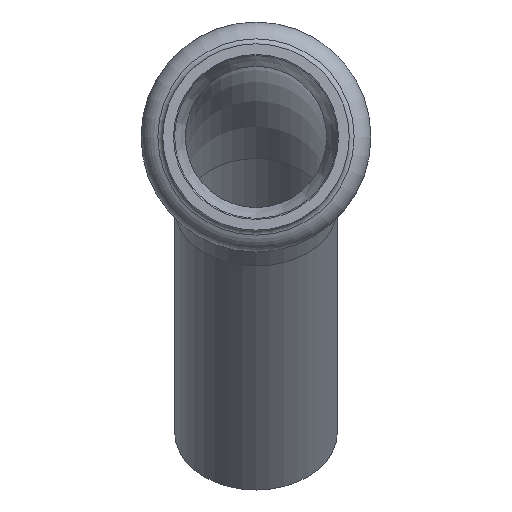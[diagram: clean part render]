
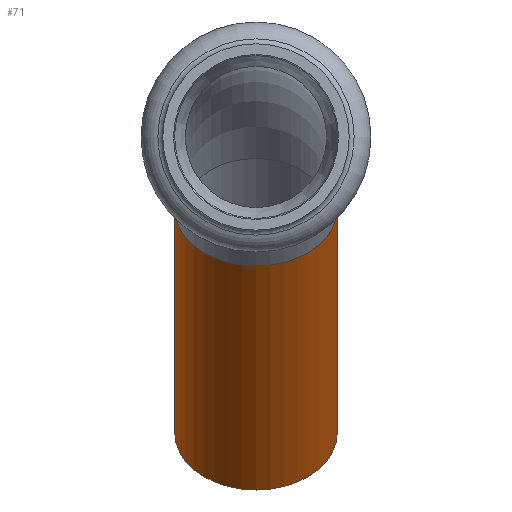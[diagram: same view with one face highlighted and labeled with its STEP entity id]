
A CAD part, front view. The second image highlights one B-rep face of the part: STEP entity #71.
In plain terms, the highlighted cylindrical face has radius 11 mm (diameter 22 mm), a full revolution.
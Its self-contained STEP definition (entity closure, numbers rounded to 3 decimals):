
#71=ADVANCED_FACE('',(#236,#238),#240,.T.);
#236=FACE_OUTER_BOUND('',#237,.T.);
#237=EDGE_LOOP('',(#305));
#238=FACE_OUTER_BOUND('',#239,.T.);
#239=EDGE_LOOP('',(#306));
#240=CYLINDRICAL_SURFACE('',#241,11.);
#241=AXIS2_PLACEMENT_3D('',#242,#243,#244);
#242=CARTESIAN_POINT('',(0.,56.165,-9.665));
#243=DIRECTION('',(0.,0.707,-0.707));
#244=DIRECTION('',(-1.,0.,0.));
#305=ORIENTED_EDGE('',*,*,#333,.F.);
#306=ORIENTED_EDGE('',*,*,#335,.T.);
#333=EDGE_CURVE('',#378,#378,#379,.T.);
#335=EDGE_CURVE('',#382,#382,#383,.T.);
#378=VERTEX_POINT('',#488);
#379=CIRCLE('',#489,11.);
#382=VERTEX_POINT('',#498);
#383=CIRCLE('',#499,11.);
#488=CARTESIAN_POINT('',(-11.,86.452,-39.952));
#489=AXIS2_PLACEMENT_3D('',#490,#491,#492);
#490=CARTESIAN_POINT('',(0.,86.452,-39.952));
#491=DIRECTION('',(0.,0.707,-0.707));
#492=DIRECTION('',(-1.,0.,0.));
#498=CARTESIAN_POINT('',(-11.,56.165,-9.665));
#499=AXIS2_PLACEMENT_3D('',#500,#501,#502);
#500=CARTESIAN_POINT('',(0.,56.165,-9.665));
#501=DIRECTION('',(0.,0.707,-0.707));
#502=DIRECTION('',(-1.,0.,0.));
